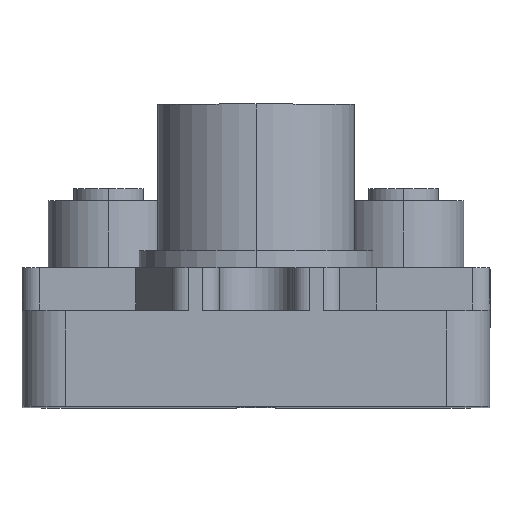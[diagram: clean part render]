
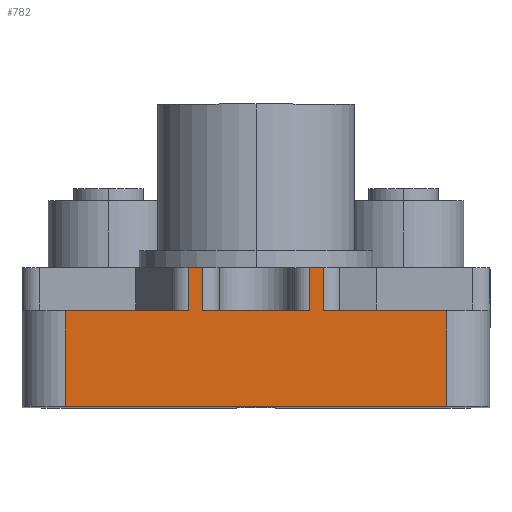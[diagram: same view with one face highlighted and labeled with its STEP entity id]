
A CAD part, top view. The second image highlights one B-rep face of the part: STEP entity #782.
In plain terms, the highlighted planar face has unit normal (0, 0, 1).
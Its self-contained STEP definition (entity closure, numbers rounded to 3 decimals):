
#78 = DIRECTION ( 'NONE',  ( 1., 0., 0. ) ) ;
#116 = VECTOR ( 'NONE', #3151, 1000. ) ;
#117 = ORIENTED_EDGE ( 'NONE', *, *, #1087, .T. ) ;
#178 = CARTESIAN_POINT ( 'NONE',  ( -27., 3., 57.7 ) ) ;
#197 = ORIENTED_EDGE ( 'NONE', *, *, #1692, .T. ) ;
#384 = LINE ( 'NONE', #2249, #7965 ) ;
#549 = ORIENTED_EDGE ( 'NONE', *, *, #3430, .T. ) ;
#575 = EDGE_CURVE ( 'NONE', #3366, #5417, #384, .T. ) ;
#614 = VERTEX_POINT ( 'NONE', #5476 ) ;
#701 = CARTESIAN_POINT ( 'NONE',  ( -6.22, 8., 57.7 ) ) ;
#731 = VERTEX_POINT ( 'NONE', #933 ) ;
#755 = LINE ( 'NONE', #4478, #7628 ) ;
#782 = ADVANCED_FACE ( 'NONE', ( #2274 ), #7156, .F. ) ;
#933 = CARTESIAN_POINT ( 'NONE',  ( 6.22, 8., 57.7 ) ) ;
#959 = EDGE_CURVE ( 'NONE', #6917, #2626, #3193, .T. ) ;
#1087 = EDGE_CURVE ( 'NONE', #7055, #7208, #5575, .T. ) ;
#1099 = VERTEX_POINT ( 'NONE', #4030 ) ;
#1246 = VECTOR ( 'NONE', #7646, 1000. ) ;
#1265 = VECTOR ( 'NONE', #2566, 1000. ) ;
#1355 = DIRECTION ( 'NONE',  ( -1., 0., 0. ) ) ;
#1506 = CARTESIAN_POINT ( 'NONE',  ( -27., 8., 57.7 ) ) ;
#1588 = EDGE_CURVE ( 'NONE', #731, #6226, #6558, .T. ) ;
#1637 = DIRECTION ( 'NONE',  ( -1., 0., 0. ) ) ;
#1692 = EDGE_CURVE ( 'NONE', #4554, #1099, #6156, .T. ) ;
#1758 = CARTESIAN_POINT ( 'NONE',  ( -7.845, 8., 57.7 ) ) ;
#1860 = CARTESIAN_POINT ( 'NONE',  ( 22., 3., 57.7 ) ) ;
#1898 = ORIENTED_EDGE ( 'NONE', *, *, #1588, .T. ) ;
#1945 = CARTESIAN_POINT ( 'NONE',  ( 7.845, 3., 57.7 ) ) ;
#1967 = ORIENTED_EDGE ( 'NONE', *, *, #3511, .T. ) ;
#2017 = DIRECTION ( 'NONE',  ( 0., 1., 0. ) ) ;
#2066 = AXIS2_PLACEMENT_3D ( 'NONE', #4119, #6590, #2877 ) ;
#2113 = DIRECTION ( 'NONE',  ( 1., 0., 0. ) ) ;
#2169 = LINE ( 'NONE', #5234, #3219 ) ;
#2233 = LINE ( 'NONE', #1506, #6374 ) ;
#2249 = CARTESIAN_POINT ( 'NONE',  ( 27., 3., 57.7 ) ) ;
#2274 = FACE_OUTER_BOUND ( 'NONE', #4940, .T. ) ;
#2333 = DIRECTION ( 'NONE',  ( -1., 0., 0. ) ) ;
#2396 = VECTOR ( 'NONE', #1355, 1000. ) ;
#2454 = ORIENTED_EDGE ( 'NONE', *, *, #4538, .T. ) ;
#2468 = ORIENTED_EDGE ( 'NONE', *, *, #575, .T. ) ;
#2566 = DIRECTION ( 'NONE',  ( 0., 1., 0. ) ) ;
#2568 = ORIENTED_EDGE ( 'NONE', *, *, #959, .T. ) ;
#2569 = VECTOR ( 'NONE', #3871, 1000. ) ;
#2601 = CARTESIAN_POINT ( 'NONE',  ( -7.845, 3., 57.7 ) ) ;
#2626 = VERTEX_POINT ( 'NONE', #7252 ) ;
#2714 = EDGE_CURVE ( 'NONE', #614, #3366, #5752, .T. ) ;
#2877 = DIRECTION ( 'NONE',  ( -1., 0., 0. ) ) ;
#2891 = CARTESIAN_POINT ( 'NONE',  ( -22., 3., 57.7 ) ) ;
#3027 = LINE ( 'NONE', #6669, #5563 ) ;
#3035 = CARTESIAN_POINT ( 'NONE',  ( -27., 8., 57.7 ) ) ;
#3132 = ORIENTED_EDGE ( 'NONE', *, *, #6821, .T. ) ;
#3151 = DIRECTION ( 'NONE',  ( 0., -1., 0. ) ) ;
#3193 = LINE ( 'NONE', #6908, #116 ) ;
#3200 = ORIENTED_EDGE ( 'NONE', *, *, #2714, .T. ) ;
#3219 = VECTOR ( 'NONE', #2333, 1000. ) ;
#3366 = VERTEX_POINT ( 'NONE', #1860 ) ;
#3430 = EDGE_CURVE ( 'NONE', #2626, #614, #3027, .T. ) ;
#3490 = DIRECTION ( 'NONE',  ( 0., -1., 0. ) ) ;
#3511 = EDGE_CURVE ( 'NONE', #5417, #4473, #755, .T. ) ;
#3769 = EDGE_CURVE ( 'NONE', #7055, #1099, #2233, .T. ) ;
#3871 = DIRECTION ( 'NONE',  ( 0., -1., 0. ) ) ;
#3917 = VECTOR ( 'NONE', #5505, 1000. ) ;
#3937 = EDGE_CURVE ( 'NONE', #731, #4473, #6712, .T. ) ;
#4030 = CARTESIAN_POINT ( 'NONE',  ( -6.22, 8., 57.7 ) ) ;
#4119 = CARTESIAN_POINT ( 'NONE',  ( -27., 8., 57.7 ) ) ;
#4130 = CARTESIAN_POINT ( 'NONE',  ( 6.22, 8., 57.7 ) ) ;
#4305 = ORIENTED_EDGE ( 'NONE', *, *, #3769, .F. ) ;
#4473 = VERTEX_POINT ( 'NONE', #7052 ) ;
#4478 = CARTESIAN_POINT ( 'NONE',  ( 7.845, 8., 57.7 ) ) ;
#4538 = EDGE_CURVE ( 'NONE', #6226, #4554, #2169, .T. ) ;
#4554 = VERTEX_POINT ( 'NONE', #7250 ) ;
#4940 = EDGE_LOOP ( 'NONE', ( #5517, #1898, #2454, #197, #4305, #117, #3132, #2568, #549, #3200, #2468, #1967 ) ) ;
#5198 = CARTESIAN_POINT ( 'NONE',  ( 6.22, 3., 57.7 ) ) ;
#5234 = CARTESIAN_POINT ( 'NONE',  ( 4.22, 3., 57.7 ) ) ;
#5417 = VERTEX_POINT ( 'NONE', #1945 ) ;
#5476 = CARTESIAN_POINT ( 'NONE',  ( 22., -8., 57.7 ) ) ;
#5505 = DIRECTION ( 'NONE',  ( 1., 0., 0. ) ) ;
#5517 = ORIENTED_EDGE ( 'NONE', *, *, #3937, .F. ) ;
#5563 = VECTOR ( 'NONE', #78, 1000. ) ;
#5575 = LINE ( 'NONE', #7551, #2569 ) ;
#5752 = LINE ( 'NONE', #6471, #1246 ) ;
#6156 = LINE ( 'NONE', #701, #1265 ) ;
#6226 = VERTEX_POINT ( 'NONE', #5198 ) ;
#6374 = VECTOR ( 'NONE', #2113, 1000. ) ;
#6471 = CARTESIAN_POINT ( 'NONE',  ( 22., 8., 57.7 ) ) ;
#6558 = LINE ( 'NONE', #4130, #6931 ) ;
#6590 = DIRECTION ( 'NONE',  ( 0., 0., -1. ) ) ;
#6669 = CARTESIAN_POINT ( 'NONE',  ( -27., -8., 57.7 ) ) ;
#6712 = LINE ( 'NONE', #3035, #3917 ) ;
#6821 = EDGE_CURVE ( 'NONE', #7208, #6917, #7609, .T. ) ;
#6908 = CARTESIAN_POINT ( 'NONE',  ( -22., 8., 57.7 ) ) ;
#6917 = VERTEX_POINT ( 'NONE', #2891 ) ;
#6931 = VECTOR ( 'NONE', #3490, 1000. ) ;
#7052 = CARTESIAN_POINT ( 'NONE',  ( 7.845, 8., 57.7 ) ) ;
#7055 = VERTEX_POINT ( 'NONE', #1758 ) ;
#7156 = PLANE ( 'NONE',  #2066 ) ;
#7208 = VERTEX_POINT ( 'NONE', #2601 ) ;
#7250 = CARTESIAN_POINT ( 'NONE',  ( -6.22, 3., 57.7 ) ) ;
#7252 = CARTESIAN_POINT ( 'NONE',  ( -22., -8., 57.7 ) ) ;
#7551 = CARTESIAN_POINT ( 'NONE',  ( -7.845, 3., 57.7 ) ) ;
#7609 = LINE ( 'NONE', #178, #2396 ) ;
#7628 = VECTOR ( 'NONE', #2017, 1000. ) ;
#7646 = DIRECTION ( 'NONE',  ( 0., 1., 0. ) ) ;
#7965 = VECTOR ( 'NONE', #1637, 1000. ) ;
